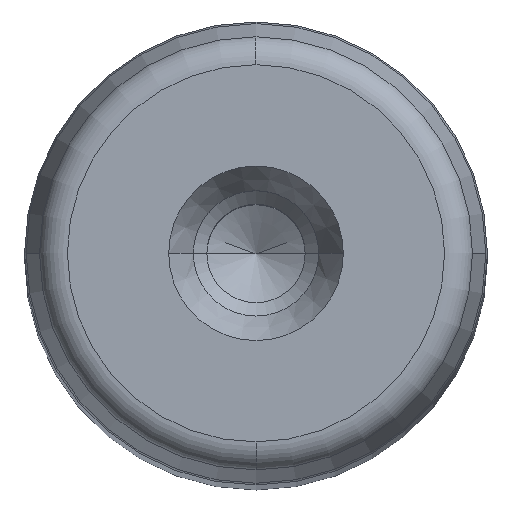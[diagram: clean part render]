
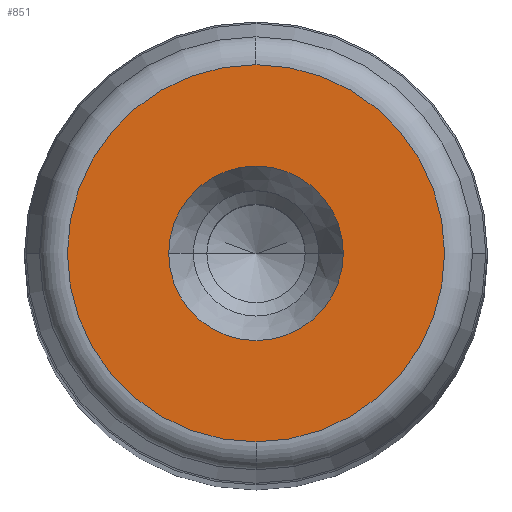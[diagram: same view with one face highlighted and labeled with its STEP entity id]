
A CAD part, top view. The second image highlights one B-rep face of the part: STEP entity #851.
In plain terms, the highlighted planar face has unit normal (0, 0, 1) as drawn and (0, 1, 0) by its records, which use the part's own axes.
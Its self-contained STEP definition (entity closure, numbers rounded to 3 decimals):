
#281=CARTESIAN_POINT('',(9.05,315.0,0.0));
#282=VERTEX_POINT('',#281);
#289=CARTESIAN_POINT('',(-9.05,315.0,0.));
#290=VERTEX_POINT('',#289);
#291=CARTESIAN_POINT('',(0.0,315.0,0.0));
#292=DIRECTION('',(0.0,1.0,0.0));
#293=DIRECTION('',(1.0,0.0,0.0));
#294=AXIS2_PLACEMENT_3D('',#291,#292,#293);
#295=CIRCLE('',#294,9.05);
#296=EDGE_CURVE('',#282,#290,#295,.T.);
#313=CARTESIAN_POINT('',(0.0,315.0,19.554));
#314=VERTEX_POINT('',#313);
#324=CARTESIAN_POINT('',(0.,315.0,-19.554));
#325=VERTEX_POINT('',#324);
#326=CARTESIAN_POINT('',(0.0,315.0,0.0));
#327=DIRECTION('',(0.0,1.0,0.0));
#328=DIRECTION('',(1.0,0.0,0.0));
#329=AXIS2_PLACEMENT_3D('',#326,#327,#328);
#330=CIRCLE('',#329,19.554);
#331=EDGE_CURVE('',#325,#314,#330,.T.);
#812=CARTESIAN_POINT('',(19.554,315.0,0.0));
#813=VERTEX_POINT('',#812);
#814=CARTESIAN_POINT('',(0.0,315.0,0.0));
#815=DIRECTION('',(0.0,1.0,0.0));
#816=DIRECTION('',(1.0,0.0,0.0));
#817=AXIS2_PLACEMENT_3D('',#814,#815,#816);
#818=CIRCLE('',#817,19.554);
#819=EDGE_CURVE('',#813,#325,#818,.T.);
#821=CARTESIAN_POINT('',(0.0,315.0,0.0));
#822=DIRECTION('',(0.0,1.0,0.0));
#823=DIRECTION('',(1.0,0.0,0.0));
#824=AXIS2_PLACEMENT_3D('',#821,#822,#823);
#825=CIRCLE('',#824,19.554);
#826=EDGE_CURVE('',#314,#813,#825,.T.);
#831=CARTESIAN_POINT('',(-21.51,315.0,-21.51));
#832=DIRECTION('',(0.0,1.0,0.0));
#833=DIRECTION('',(0.0,0.0,1.0));
#834=AXIS2_PLACEMENT_3D('',#831,#832,#833);
#835=PLANE('',#834);
#836=ORIENTED_EDGE('',*,*,#819,.T.);
#837=ORIENTED_EDGE('',*,*,#331,.T.);
#838=ORIENTED_EDGE('',*,*,#826,.T.);
#839=EDGE_LOOP('',(#836,#837,#838));
#840=FACE_OUTER_BOUND('',#839,.T.);
#841=ORIENTED_EDGE('',*,*,#296,.F.);
#842=CARTESIAN_POINT('',(0.0,315.0,0.0));
#843=DIRECTION('',(0.0,1.0,0.0));
#844=DIRECTION('',(1.0,0.0,0.0));
#845=AXIS2_PLACEMENT_3D('',#842,#843,#844);
#846=CIRCLE('',#845,9.05);
#847=EDGE_CURVE('',#290,#282,#846,.T.);
#848=ORIENTED_EDGE('',*,*,#847,.F.);
#849=EDGE_LOOP('',(#841,#848));
#850=FACE_BOUND('',#849,.T.);
#851=ADVANCED_FACE('',(#840,#850),#835,.T.);
